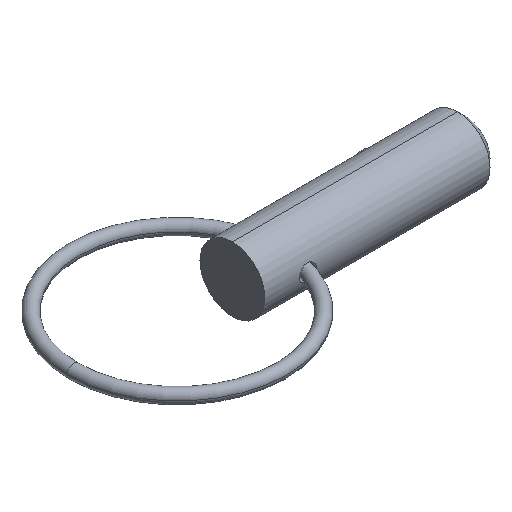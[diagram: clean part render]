
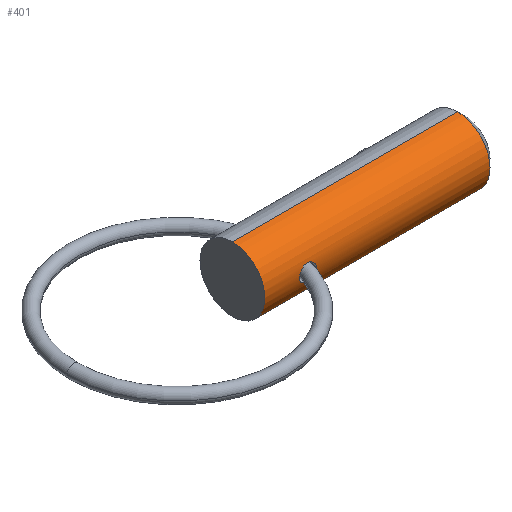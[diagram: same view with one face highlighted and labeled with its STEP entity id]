
A CAD part, isometric view. The second image highlights one B-rep face of the part: STEP entity #401.
In plain terms, the highlighted cylindrical face has radius 3.97 mm (diameter 7.94 mm), a partial arc.
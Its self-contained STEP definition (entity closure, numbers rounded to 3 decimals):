
#43 = DIRECTION ( 'NONE',  ( 0., 0., -1. ) ) ;
#53 = ORIENTED_EDGE ( 'NONE', *, *, #560, .T. ) ;
#58 = CARTESIAN_POINT ( 'NONE',  ( 6.323, -3.963, 0.268 ) ) ;
#66 = CARTESIAN_POINT ( 'NONE',  ( 5.837, -3.871, -0.882 ) ) ;
#69 = CARTESIAN_POINT ( 'NONE',  ( 0., 0., 3.97 ) ) ;
#70 = CARTESIAN_POINT ( 'NONE',  ( 6.221, -3.939, -0.514 ) ) ;
#73 = LINE ( 'NONE', #69, #497 ) ;
#97 = ORIENTED_EDGE ( 'NONE', *, *, #181, .T. ) ;
#106 = CARTESIAN_POINT ( 'NONE',  ( 0., 0., 0. ) ) ;
#111 = CARTESIAN_POINT ( 'NONE',  ( 0., 0., 0. ) ) ;
#112 = ORIENTED_EDGE ( 'NONE', *, *, #113, .F. ) ;
#113 = EDGE_CURVE ( 'NONE', #255, #734, #682, .T. ) ;
#114 = CARTESIAN_POINT ( 'NONE',  ( 4.26, -3.97, 0. ) ) ;
#130 = CARTESIAN_POINT ( 'NONE',  ( 5.587, -3.849, 0.975 ) ) ;
#134 = CIRCLE ( 'NONE', #606, 3.97 ) ;
#136 = CARTESIAN_POINT ( 'NONE',  ( 6.35, -3.97, 0. ) ) ;
#137 = DIRECTION ( 'NONE',  ( 1., 0., 0. ) ) ;
#143 = CARTESIAN_POINT ( 'NONE',  ( 6.144, -3.921, 0.626 ) ) ;
#144 = CARTESIAN_POINT ( 'NONE',  ( 4.26, -3.97, -0.134 ) ) ;
#146 = EDGE_LOOP ( 'NONE', ( #315, #792, #53, #112 ) ) ;
#148 = CARTESIAN_POINT ( 'NONE',  ( 5.452, -3.843, -0.996 ) ) ;
#180 = DIRECTION ( 'NONE',  ( 1., 0., 0. ) ) ;
#181 = EDGE_CURVE ( 'NONE', #765, #587, #474, .T. ) ;
#189 = CARTESIAN_POINT ( 'NONE',  ( 4.408, -3.939, 0.507 ) ) ;
#190 = CARTESIAN_POINT ( 'NONE',  ( 6.35, -3.97, 0. ) ) ;
#192 = CARTESIAN_POINT ( 'NONE',  ( 4.292, -3.963, 0.268 ) ) ;
#193 = B_SPLINE_CURVE_WITH_KNOTS ( 'NONE', 3,
 ( #602, #534, #192, #189, #388, #597, #841, #274, #794, #782, #130, #264, #608, #143, #457, #58, #399, #136 ),
 .UNSPECIFIED., .F., .F.,
 ( 4, 2, 2, 2, 2, 2, 2, 2, 4 ),
 ( 0.001, 0.001, 0.001, 0.002, 0.002, 0.003, 0.003, 0.003, 0.004 ),
 .UNSPECIFIED. ) ;
#208 = CARTESIAN_POINT ( 'NONE',  ( 4.492, -3.923, -0.614 ) ) ;
#239 = CARTESIAN_POINT ( 'NONE',  ( 0., 0., -3.97 ) ) ;
#248 = CARTESIAN_POINT ( 'NONE',  ( 4.408, -3.939, -0.508 ) ) ;
#252 = DIRECTION ( 'NONE',  ( 0., 0., -1. ) ) ;
#255 = VERTEX_POINT ( 'NONE', #556 ) ;
#264 = CARTESIAN_POINT ( 'NONE',  ( 5.839, -3.871, 0.882 ) ) ;
#266 = CARTESIAN_POINT ( 'NONE',  ( 4.291, -3.963, -0.267 ) ) ;
#274 = CARTESIAN_POINT ( 'NONE',  ( 5.055, -3.852, 0.961 ) ) ;
#301 = VERTEX_POINT ( 'NONE', #810 ) ;
#312 = FACE_BOUND ( 'NONE', #501, .T. ) ;
#315 = ORIENTED_EDGE ( 'NONE', *, *, #766, .F. ) ;
#324 = CARTESIAN_POINT ( 'NONE',  ( 5.587, -3.849, -0.975 ) ) ;
#333 = CARTESIAN_POINT ( 'NONE',  ( 5.052, -3.846, -0.984 ) ) ;
#337 = VECTOR ( 'NONE', #570, 1000. ) ;
#388 = CARTESIAN_POINT ( 'NONE',  ( 4.492, -3.923, 0.614 ) ) ;
#397 = DIRECTION ( 'NONE',  ( 0., 0., -1. ) ) ;
#399 = CARTESIAN_POINT ( 'NONE',  ( 6.35, -3.97, 0.134 ) ) ;
#401 = ADVANCED_FACE ( 'NONE', ( #446, #312 ), #696, .T. ) ;
#446 = FACE_OUTER_BOUND ( 'NONE', #146, .T. ) ;
#457 = CARTESIAN_POINT ( 'NONE',  ( 6.221, -3.939, 0.513 ) ) ;
#471 = CARTESIAN_POINT ( 'NONE',  ( 0., 0., 3.97 ) ) ;
#474 = B_SPLINE_CURVE_WITH_KNOTS ( 'NONE', 3,
 ( #190, #532, #591, #70, #604, #732, #66, #324, #148, #333, #728, #208, #248, #266, #144, #788 ),
 .UNSPECIFIED., .F., .F.,
 ( 4, 2, 2, 2, 2, 2, 2, 4 ),
 ( 0.004, 0.004, 0.005, 0.005, 0.005, 0.006, 0.007, 0.007 ),
 .UNSPECIFIED. ) ;
#497 = VECTOR ( 'NONE', #530, 1000. ) ;
#501 = EDGE_LOOP ( 'NONE', ( #575, #97 ) ) ;
#530 = DIRECTION ( 'NONE',  ( 1., 0., 0. ) ) ;
#532 = CARTESIAN_POINT ( 'NONE',  ( 6.35, -3.97, -0.133 ) ) ;
#534 = CARTESIAN_POINT ( 'NONE',  ( 4.26, -3.97, 0.134 ) ) ;
#556 = CARTESIAN_POINT ( 'NONE',  ( 27.588, 0., 3.97 ) ) ;
#560 = EDGE_CURVE ( 'NONE', #301, #734, #572, .T. ) ;
#570 = DIRECTION ( 'NONE',  ( 1., 0., 0. ) ) ;
#572 = LINE ( 'NONE', #239, #337 ) ;
#573 = EDGE_CURVE ( 'NONE', #631, #301, #134, .T. ) ;
#575 = ORIENTED_EDGE ( 'NONE', *, *, #742, .T. ) ;
#582 = DIRECTION ( 'NONE',  ( 1., 0., 0. ) ) ;
#587 = VERTEX_POINT ( 'NONE', #114 ) ;
#591 = CARTESIAN_POINT ( 'NONE',  ( 6.324, -3.963, -0.267 ) ) ;
#594 = CARTESIAN_POINT ( 'NONE',  ( 27.588, 0., -3.97 ) ) ;
#597 = CARTESIAN_POINT ( 'NONE',  ( 4.691, -3.891, 0.792 ) ) ;
#602 = CARTESIAN_POINT ( 'NONE',  ( 4.26, -3.97, 0. ) ) ;
#604 = CARTESIAN_POINT ( 'NONE',  ( 6.145, -3.922, -0.626 ) ) ;
#606 = AXIS2_PLACEMENT_3D ( 'NONE', #111, #582, #252 ) ;
#608 = CARTESIAN_POINT ( 'NONE',  ( 5.953, -3.888, 0.81 ) ) ;
#619 = AXIS2_PLACEMENT_3D ( 'NONE', #656, #137, #397 ) ;
#631 = VERTEX_POINT ( 'NONE', #471 ) ;
#656 = CARTESIAN_POINT ( 'NONE',  ( 27.588, 0., 0. ) ) ;
#666 = CARTESIAN_POINT ( 'NONE',  ( 6.35, -3.97, 0. ) ) ;
#682 = CIRCLE ( 'NONE', #619, 3.97 ) ;
#696 = CYLINDRICAL_SURFACE ( 'NONE', #803, 3.97 ) ;
#728 = CARTESIAN_POINT ( 'NONE',  ( 4.788, -3.876, -0.879 ) ) ;
#732 = CARTESIAN_POINT ( 'NONE',  ( 5.952, -3.887, -0.811 ) ) ;
#734 = VERTEX_POINT ( 'NONE', #594 ) ;
#742 = EDGE_CURVE ( 'NONE', #587, #765, #193, .T. ) ;
#765 = VERTEX_POINT ( 'NONE', #666 ) ;
#766 = EDGE_CURVE ( 'NONE', #631, #255, #73, .T. ) ;
#782 = CARTESIAN_POINT ( 'NONE',  ( 5.455, -3.843, 0.996 ) ) ;
#788 = CARTESIAN_POINT ( 'NONE',  ( 4.26, -3.97, 0. ) ) ;
#792 = ORIENTED_EDGE ( 'NONE', *, *, #573, .T. ) ;
#794 = CARTESIAN_POINT ( 'NONE',  ( 5.185, -3.845, 0.988 ) ) ;
#803 = AXIS2_PLACEMENT_3D ( 'NONE', #106, #180, #43 ) ;
#810 = CARTESIAN_POINT ( 'NONE',  ( 0., 0., -3.97 ) ) ;
#841 = CARTESIAN_POINT ( 'NONE',  ( 4.805, -3.876, 0.862 ) ) ;
